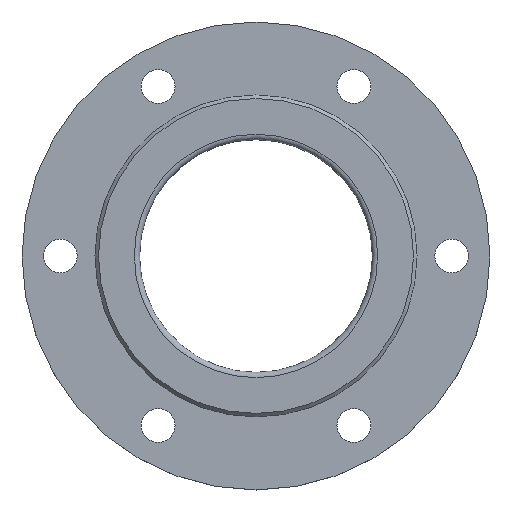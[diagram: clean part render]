
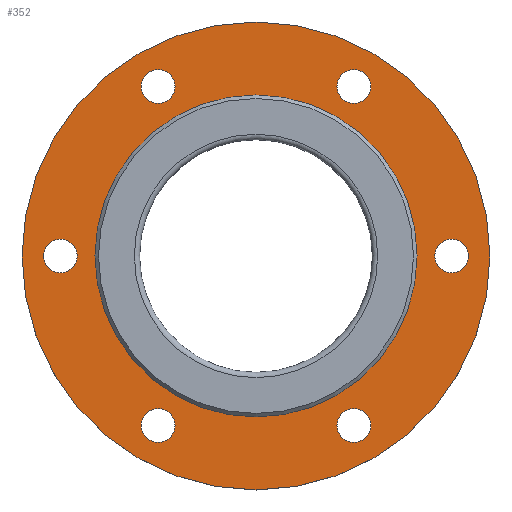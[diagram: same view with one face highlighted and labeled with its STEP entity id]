
A CAD part, top view. The second image highlights one B-rep face of the part: STEP entity #352.
In plain terms, the highlighted planar face has unit normal (0, 0, 1).
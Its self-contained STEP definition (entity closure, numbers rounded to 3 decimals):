
#20=FACE_BOUND('',#64,.T.);
#21=FACE_BOUND('',#65,.T.);
#22=FACE_BOUND('',#66,.T.);
#23=FACE_BOUND('',#67,.T.);
#24=FACE_BOUND('',#68,.T.);
#25=FACE_BOUND('',#69,.T.);
#26=FACE_BOUND('',#70,.T.);
#36=PLANE('',#407);
#46=FACE_OUTER_BOUND('',#63,.T.);
#63=EDGE_LOOP('',(#268,#269));
#64=EDGE_LOOP('',(#270,#271));
#65=EDGE_LOOP('',(#272,#273));
#66=EDGE_LOOP('',(#274,#275));
#67=EDGE_LOOP('',(#276,#277));
#68=EDGE_LOOP('',(#278,#279));
#69=EDGE_LOOP('',(#280,#281));
#70=EDGE_LOOP('',(#282,#283));
#112=CIRCLE('',#384,9.5);
#113=CIRCLE('',#385,9.5);
#115=CIRCLE('',#388,9.5);
#116=CIRCLE('',#389,9.5);
#118=CIRCLE('',#392,9.5);
#119=CIRCLE('',#393,9.5);
#121=CIRCLE('',#396,9.5);
#122=CIRCLE('',#397,9.5);
#124=CIRCLE('',#400,9.5);
#125=CIRCLE('',#401,9.5);
#127=CIRCLE('',#404,9.5);
#128=CIRCLE('',#405,9.5);
#130=CIRCLE('',#408,131.5);
#131=CIRCLE('',#409,131.5);
#132=CIRCLE('',#410,90.5);
#133=CIRCLE('',#411,90.5);
#151=VERTEX_POINT('',#566);
#152=VERTEX_POINT('',#567);
#154=VERTEX_POINT('',#574);
#155=VERTEX_POINT('',#575);
#157=VERTEX_POINT('',#582);
#158=VERTEX_POINT('',#583);
#160=VERTEX_POINT('',#590);
#161=VERTEX_POINT('',#591);
#163=VERTEX_POINT('',#598);
#164=VERTEX_POINT('',#599);
#166=VERTEX_POINT('',#606);
#167=VERTEX_POINT('',#607);
#169=VERTEX_POINT('',#614);
#170=VERTEX_POINT('',#615);
#171=VERTEX_POINT('',#618);
#172=VERTEX_POINT('',#619);
#188=EDGE_CURVE('',#151,#152,#112,.T.);
#189=EDGE_CURVE('',#152,#151,#113,.T.);
#192=EDGE_CURVE('',#154,#155,#115,.T.);
#193=EDGE_CURVE('',#155,#154,#116,.T.);
#196=EDGE_CURVE('',#157,#158,#118,.T.);
#197=EDGE_CURVE('',#158,#157,#119,.T.);
#200=EDGE_CURVE('',#160,#161,#121,.T.);
#201=EDGE_CURVE('',#161,#160,#122,.T.);
#204=EDGE_CURVE('',#163,#164,#124,.T.);
#205=EDGE_CURVE('',#164,#163,#125,.T.);
#208=EDGE_CURVE('',#166,#167,#127,.T.);
#209=EDGE_CURVE('',#167,#166,#128,.T.);
#212=EDGE_CURVE('',#169,#170,#130,.T.);
#213=EDGE_CURVE('',#170,#169,#131,.T.);
#214=EDGE_CURVE('',#171,#172,#132,.T.);
#215=EDGE_CURVE('',#172,#171,#133,.T.);
#268=ORIENTED_EDGE('',*,*,#212,.F.);
#269=ORIENTED_EDGE('',*,*,#213,.F.);
#270=ORIENTED_EDGE('',*,*,#188,.T.);
#271=ORIENTED_EDGE('',*,*,#189,.T.);
#272=ORIENTED_EDGE('',*,*,#192,.T.);
#273=ORIENTED_EDGE('',*,*,#193,.T.);
#274=ORIENTED_EDGE('',*,*,#196,.T.);
#275=ORIENTED_EDGE('',*,*,#197,.T.);
#276=ORIENTED_EDGE('',*,*,#200,.T.);
#277=ORIENTED_EDGE('',*,*,#201,.T.);
#278=ORIENTED_EDGE('',*,*,#204,.T.);
#279=ORIENTED_EDGE('',*,*,#205,.T.);
#280=ORIENTED_EDGE('',*,*,#208,.T.);
#281=ORIENTED_EDGE('',*,*,#209,.T.);
#282=ORIENTED_EDGE('',*,*,#214,.T.);
#283=ORIENTED_EDGE('',*,*,#215,.T.);
#352=ADVANCED_FACE('',(#46,#20,#21,#22,#23,#24,#25,#26),#36,.F.);
#384=AXIS2_PLACEMENT_3D('',#568,#443,#444);
#385=AXIS2_PLACEMENT_3D('',#569,#445,#446);
#388=AXIS2_PLACEMENT_3D('',#576,#452,#453);
#389=AXIS2_PLACEMENT_3D('',#577,#454,#455);
#392=AXIS2_PLACEMENT_3D('',#584,#461,#462);
#393=AXIS2_PLACEMENT_3D('',#585,#463,#464);
#396=AXIS2_PLACEMENT_3D('',#592,#470,#471);
#397=AXIS2_PLACEMENT_3D('',#593,#472,#473);
#400=AXIS2_PLACEMENT_3D('',#600,#479,#480);
#401=AXIS2_PLACEMENT_3D('',#601,#481,#482);
#404=AXIS2_PLACEMENT_3D('',#608,#488,#489);
#405=AXIS2_PLACEMENT_3D('',#609,#490,#491);
#407=AXIS2_PLACEMENT_3D('',#613,#495,#496);
#408=AXIS2_PLACEMENT_3D('',#616,#497,#498);
#409=AXIS2_PLACEMENT_3D('',#617,#499,#500);
#410=AXIS2_PLACEMENT_3D('',#620,#501,#502);
#411=AXIS2_PLACEMENT_3D('',#621,#503,#504);
#443=DIRECTION('center_axis',(0.,0.,-1.));
#444=DIRECTION('ref_axis',(0.5,-0.866,0.));
#445=DIRECTION('center_axis',(0.,0.,-1.));
#446=DIRECTION('ref_axis',(0.5,-0.866,0.));
#452=DIRECTION('center_axis',(0.,0.,-1.));
#453=DIRECTION('ref_axis',(-0.5,-0.866,0.));
#454=DIRECTION('center_axis',(0.,0.,-1.));
#455=DIRECTION('ref_axis',(-0.5,-0.866,0.));
#461=DIRECTION('center_axis',(0.,0.,-1.));
#462=DIRECTION('ref_axis',(-1.,0.,0.));
#463=DIRECTION('center_axis',(0.,0.,-1.));
#464=DIRECTION('ref_axis',(-1.,0.,0.));
#470=DIRECTION('center_axis',(0.,0.,-1.));
#471=DIRECTION('ref_axis',(-0.5,0.866,0.));
#472=DIRECTION('center_axis',(0.,0.,-1.));
#473=DIRECTION('ref_axis',(-0.5,0.866,0.));
#479=DIRECTION('center_axis',(0.,0.,-1.));
#480=DIRECTION('ref_axis',(0.5,0.866,0.));
#481=DIRECTION('center_axis',(0.,0.,-1.));
#482=DIRECTION('ref_axis',(0.5,0.866,0.));
#488=DIRECTION('center_axis',(0.,0.,-1.));
#489=DIRECTION('ref_axis',(1.,0.,0.));
#490=DIRECTION('center_axis',(0.,0.,-1.));
#491=DIRECTION('ref_axis',(1.,0.,0.));
#495=DIRECTION('center_axis',(0.,0.,-1.));
#496=DIRECTION('ref_axis',(-1.,0.,0.));
#497=DIRECTION('center_axis',(0.,0.,-1.));
#498=DIRECTION('ref_axis',(1.,0.,0.));
#499=DIRECTION('center_axis',(0.,0.,-1.));
#500=DIRECTION('ref_axis',(1.,0.,0.));
#501=DIRECTION('center_axis',(0.,0.,-1.));
#502=DIRECTION('ref_axis',(1.,0.,0.));
#503=DIRECTION('center_axis',(0.,0.,-1.));
#504=DIRECTION('ref_axis',(1.,0.,0.));
#566=CARTESIAN_POINT('',(59.75,87.036,-2.));
#567=CARTESIAN_POINT('',(50.25,103.49,-2.));
#568=CARTESIAN_POINT('Origin',(55.,95.263,-2.));
#569=CARTESIAN_POINT('Origin',(55.,95.263,-2.));
#574=CARTESIAN_POINT('',(105.25,-8.227,-2.));
#575=CARTESIAN_POINT('',(114.75,8.227,-2.));
#576=CARTESIAN_POINT('Origin',(110.,0.,-2.));
#577=CARTESIAN_POINT('Origin',(110.,0.,-2.));
#582=CARTESIAN_POINT('',(45.5,-95.263,-2.));
#583=CARTESIAN_POINT('',(64.5,-95.263,-2.));
#584=CARTESIAN_POINT('Origin',(55.,-95.263,-2.));
#585=CARTESIAN_POINT('Origin',(55.,-95.263,-2.));
#590=CARTESIAN_POINT('',(-59.75,-87.036,-2.));
#591=CARTESIAN_POINT('',(-50.25,-103.49,-2.));
#592=CARTESIAN_POINT('Origin',(-55.,-95.263,-2.));
#593=CARTESIAN_POINT('Origin',(-55.,-95.263,-2.));
#598=CARTESIAN_POINT('',(-105.25,8.227,-2.));
#599=CARTESIAN_POINT('',(-114.75,-8.227,-2.));
#600=CARTESIAN_POINT('Origin',(-110.,0.,-2.));
#601=CARTESIAN_POINT('Origin',(-110.,0.,-2.));
#606=CARTESIAN_POINT('',(-45.5,95.263,-2.));
#607=CARTESIAN_POINT('',(-64.5,95.263,-2.));
#608=CARTESIAN_POINT('Origin',(-55.,95.263,-2.));
#609=CARTESIAN_POINT('Origin',(-55.,95.263,-2.));
#613=CARTESIAN_POINT('Origin',(90.5,0.,-2.));
#614=CARTESIAN_POINT('',(131.5,0.,-2.));
#615=CARTESIAN_POINT('',(-131.5,0.,-2.));
#616=CARTESIAN_POINT('Origin',(0.,0.,-2.));
#617=CARTESIAN_POINT('Origin',(0.,0.,-2.));
#618=CARTESIAN_POINT('',(90.5,0.,-2.));
#619=CARTESIAN_POINT('',(-90.5,0.,-2.));
#620=CARTESIAN_POINT('Origin',(0.,0.,-2.));
#621=CARTESIAN_POINT('Origin',(0.,0.,-2.));
